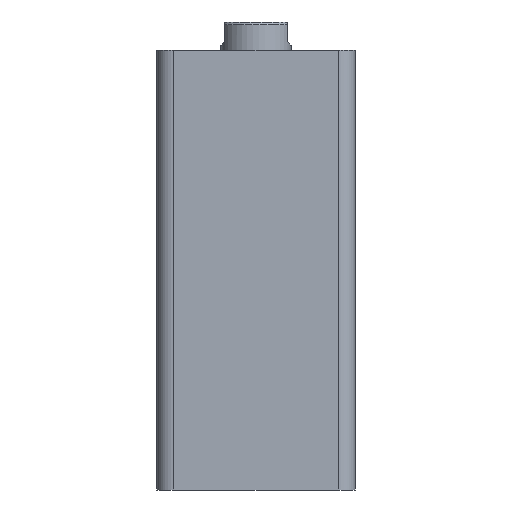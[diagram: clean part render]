
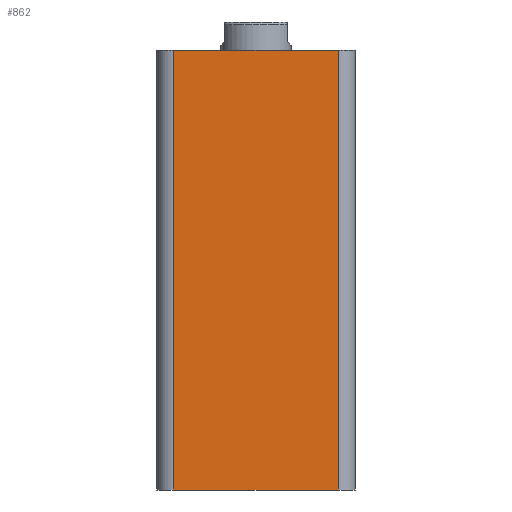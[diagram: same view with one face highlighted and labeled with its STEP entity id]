
A CAD part, front view. The second image highlights one B-rep face of the part: STEP entity #862.
In plain terms, the highlighted planar face has unit normal (0, -1, 0).
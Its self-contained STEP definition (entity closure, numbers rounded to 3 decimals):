
#305 = VERTEX_POINT ( 'NONE', #2477 ) ;
#322 = VERTEX_POINT ( 'NONE', #2460 ) ;
#325 = VERTEX_POINT ( 'NONE', #2457 ) ;
#348 = VERTEX_POINT ( 'NONE', #2434 ) ;
#472 = AXIS2_PLACEMENT_3D ( 'NONE', #2085, #2076, #2075 ) ;
#665 = DIRECTION ( 'NONE',  ( 0., 0., 1. ) ) ;
#666 = CARTESIAN_POINT ( 'NONE',  ( 29., -35., 155. ) ) ;
#668 = DIRECTION ( 'NONE',  ( 1., 0., 0. ) ) ;
#669 = DIRECTION ( 'NONE',  ( 0., 0., -1. ) ) ;
#673 = CARTESIAN_POINT ( 'NONE',  ( -29., -35., 155. ) ) ;
#674 = DIRECTION ( 'NONE',  ( 1., 0., 0. ) ) ;
#677 = CARTESIAN_POINT ( 'NONE',  ( -35., -35., 155. ) ) ;
#688 = CARTESIAN_POINT ( 'NONE',  ( -35., -35., 0. ) ) ;
#862 = ADVANCED_FACE ( 'NONE', ( #1317 ), #2082, .F. ) ;
#1026 = LINE ( 'NONE', #677, #1367 ) ;
#1317 = FACE_OUTER_BOUND ( 'NONE', #1427, .T. ) ;
#1367 = VECTOR ( 'NONE', #674, 1000. ) ;
#1427 = EDGE_LOOP ( 'NONE', ( #1694, #1695, #1696, #1698 ) ) ;
#1694 = ORIENTED_EDGE ( 'NONE', *, *, #2580, .F. ) ;
#1695 = ORIENTED_EDGE ( 'NONE', *, *, #2581, .T. ) ;
#1696 = ORIENTED_EDGE ( 'NONE', *, *, #2582, .T. ) ;
#1698 = ORIENTED_EDGE ( 'NONE', *, *, #2583, .T. ) ;
#1941 = VECTOR ( 'NONE', #665, 1000. ) ;
#1943 = VECTOR ( 'NONE', #668, 1000. ) ;
#1944 = LINE ( 'NONE', #688, #1943 ) ;
#1945 = LINE ( 'NONE', #666, #1941 ) ;
#1946 = VECTOR ( 'NONE', #669, 1000. ) ;
#1947 = LINE ( 'NONE', #673, #1946 ) ;
#2075 = DIRECTION ( 'NONE',  ( 0., 0., 1. ) ) ;
#2076 = DIRECTION ( 'NONE',  ( 0., 1., 0. ) ) ;
#2082 = PLANE ( 'NONE',  #472 ) ;
#2085 = CARTESIAN_POINT ( 'NONE',  ( -35., -35., 155. ) ) ;
#2434 = CARTESIAN_POINT ( 'NONE',  ( -29., -35., 155. ) ) ;
#2457 = CARTESIAN_POINT ( 'NONE',  ( -29., -35., 0. ) ) ;
#2460 = CARTESIAN_POINT ( 'NONE',  ( 29., -35., 0. ) ) ;
#2477 = CARTESIAN_POINT ( 'NONE',  ( 29., -35., 155. ) ) ;
#2580 = EDGE_CURVE ( 'NONE', #348, #305, #1026, .T. ) ;
#2581 = EDGE_CURVE ( 'NONE', #348, #325, #1947, .T. ) ;
#2582 = EDGE_CURVE ( 'NONE', #325, #322, #1944, .T. ) ;
#2583 = EDGE_CURVE ( 'NONE', #322, #305, #1945, .T. ) ;
